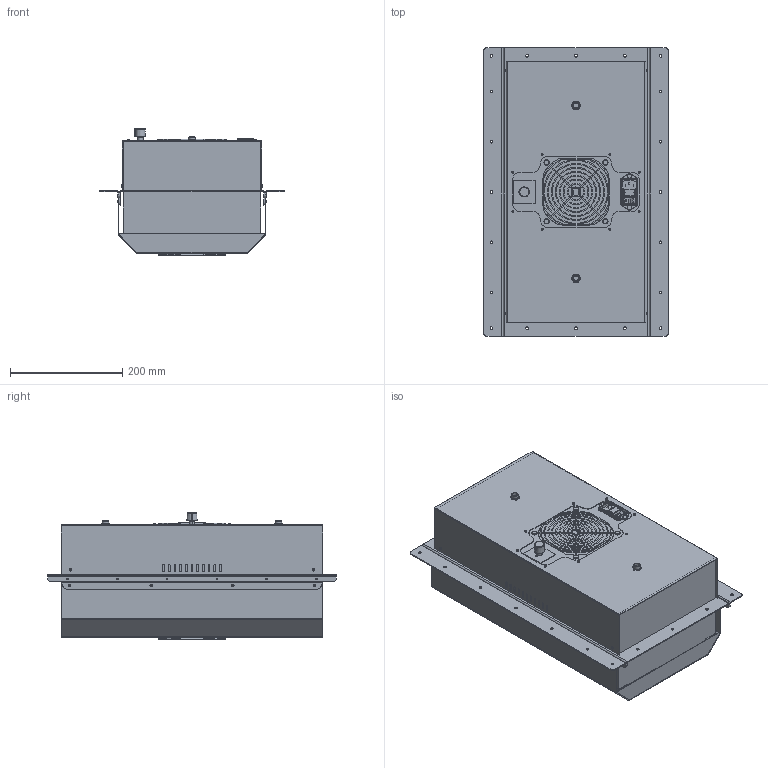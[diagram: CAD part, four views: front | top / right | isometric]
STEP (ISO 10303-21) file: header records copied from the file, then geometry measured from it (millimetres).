
FILE_DESCRIPTION(/* description */ ('Alibre Inc.'),/* implementation_level */ '2;1');
FILE_NAME(/* name */ 'export-305AC5F0-CFB1-400E-BC38-8B6A9EB95976',/* time_stamp */ '2022-09-01T12:55:46-04:00',/* author */ (''),/* organization */ (''),/* preprocessor_version */ 'ST-DEVELOPER v17',/* originating_system */ 'Alibre',/* authorisation */ '');
FILE_SCHEMA (('CONFIG_CONTROL_DESIGN'));
Length unit declared in the file: inch
Bounding box: 330.2 x 514.35 x 225.76 mm (x, y, z)
Surface area: 8549380.8 mm2
Topology: 39 solids, 57 shells, 919 faces, 2239 edges, 1445 vertices
Faces by surface type: plane 465, cylinder 303, torus 107, cone 25, bspline 19
Full cylindrical faces by diameter (mm): 1.778 x8, 1.8 x8, 2.5 x1, 2.769 x1, 2.845 x12, 3.175 x24, 3.454 x16, 3.5 x1, 3.505 x8, 3.962 x24, 4.763 x20, 5.334 x8, 7.3 x1, 7.5 x1, 8.5 x2, 9.525 x9, 10.16 x1, 11.8 x2
Entity records: 27160 total; most frequent: CARTESIAN_POINT 7552, ORIENTED_EDGE 3838, DIRECTION 3588, EDGE_CURVE 1891, AXIS2_PLACEMENT_3D 1517, VERTEX_POINT 1342, FACE_BOUND 1331, EDGE_LOOP 1315
